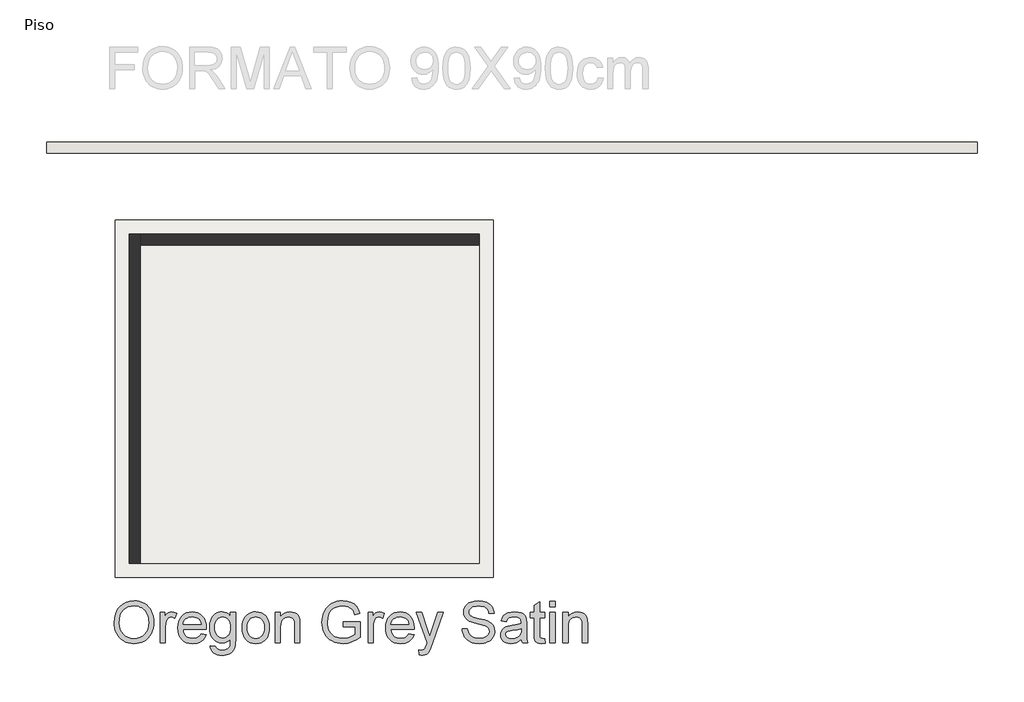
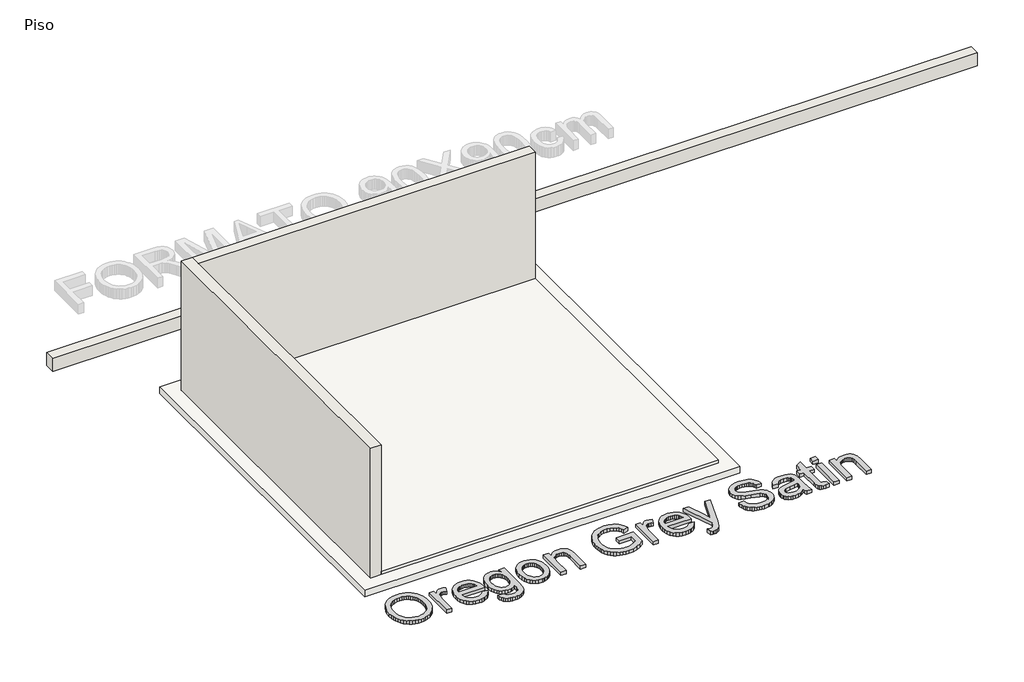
# One storey, part 1 of 2: 3 walls, 2 slabs, 1 proxy.
"""IFC4 building model written with IfcOpenShell, lengths in millimetres."""

from ifc_helpers import new_model, si_unit, frame, origin, origin_with_axes, place, context, project, spatial, polyline, outline, extrude, faceted_brep, element, save

model = new_model("IFC4")

# Units and contexts
model_context = context("Model", 3, world=origin())
ifc_project = project(units=[si_unit("LENGTHUNIT", "METRE", prefix="MILLI")], contexts=[model_context])

# Site, building, storey
site = spatial("IfcSite", under=ifc_project)
building = spatial("IfcBuilding", under=site)
storey = spatial("IfcBuildingStorey", under=building, Name="Piso", Elevation=0.0)

# Proxy
placement = place(None, origin())
element("IfcBuildingElementProxy", 1, Name="600mm Arial", ObjectType="600mm Arial", at=placement, inside=storey, context=model_context, shape_type="SweptSolid", body=[
    extrude(outline(polyline([(92667.2774556, -5048.0271216), (92672.2990448, -4977.3293991), (92687.3638125, -4914.7434747), (92712.4717587, -4860.2693483), (92728.7919237, -4836.0742093), (92747.6228833, -4813.9070198), (92790.711062, -4776.8888941), (92839.6301703, -4750.4473757), (92894.3802082, -4734.5824646), (92954.9611758, -4729.2941609), (92995.5109687, -4731.7773644), (93034.0190166, -4739.2269748), (93070.4853193, -4751.6429921), (93104.909877, -4769.0254164), (93136.3269994, -4790.8500158), (93163.7709963, -4816.5925584), (93187.2418675, -4846.2530443), (93206.7396133, -4879.8314734), (93222.0618984, -4916.5644906), (93233.0063877, -4955.6887408), (93239.5730814, -4997.2042239), (93241.7619792, -5041.11094), (93239.4581182, -5085.5970703), (93232.5465352, -5127.6735735), (93221.0272303, -5167.3404496), (93204.9002033, -5204.5976987), (93184.5471319, -5238.4612364), (93160.3496937, -5267.9469783), (93132.3078886, -5293.0549244), (93100.4217167, -5313.7850749), (93065.9465752, -5330.0086709), (93030.1378615, -5341.5969537), (92992.9955756, -5348.5499234), (92954.5197174, -5350.86758), (92913.2617516, -5348.3062016), (92874.247866, -5340.6220664), (92837.4780606, -5327.8151745), (92802.9523354, -5309.8855257), (92771.5720012, -5287.5274975), (92744.238369, -5261.435467), (92720.9514387, -5231.6094342), (92701.7112103, -5198.0493992), (92686.6464426, -5162.1027297), (92675.8858942, -5125.1167936), (92669.4295652, -5087.0915909), (92667.2774556, -5048.0271216)]), holes=[polyline([(92742.6196882, -5048.7628855), (92746.3858801, -5098.7120634), (92757.6844559, -5143.0510409), (92776.5154155, -5181.779818), (92802.878759, -5214.8983946), (92834.9258793, -5241.4226864), (92870.8081694, -5260.3686092), (92910.5256293, -5271.7361628), (92954.078259, -5275.5253474), (92998.3758497, -5271.6993746), (93038.5623592, -5260.2214564), (93074.6377873, -5241.0915926), (93106.6021342, -5214.3097834), (93132.7723396, -5180.492231), (93151.4653435, -5140.2551377), (93162.6811458, -5093.5985037), (93166.4197466, -5040.5223289), (93164.8194599, -5006.0425889), (93160.0185999, -4973.8253231), (93152.0171665, -4943.8705317), (93140.8151598, -4916.1782145), (93126.5367398, -4891.111655), (93109.3060669, -4869.0341368), (93089.1231409, -4849.9456598), (93065.9879619, -4833.846224), (93040.6178998, -4821.0669232), (93013.7303245, -4811.9388512), (92985.325236, -4806.4620079), (92955.4026342, -4804.6363935), (92913.3629192, -4808.1542651), (92874.3582306, -4818.7078799), (92838.3885686, -4836.2972378), (92805.4539329, -4860.9223388), (92777.9639509, -4893.7696025), (92758.3282494, -4936.0254481), (92746.5468285, -4987.6898758), (92742.6196882, -5048.7628855)])]), origin_with_axes(), (0.0, 0.0, 1.0), 50.0),
    extrude(outline(polyline([(93335.93977, -5341.4498009), (93335.93977, -4898.8141843), (93401.8642235, -4898.8141843), (93401.8642235, -4964.2971795), (93426.2180116, -4926.3317576), (93448.6588133, -4903.9645322), (93471.1731914, -4893.038437), (93495.7477087, -4889.3964052), (93533.2716722, -4895.2089408), (93571.3842469, -4912.6465473), (93546.2211184, -4980.1896816), (93519.7336148, -4968.6013988), (93493.2461111, -4964.7386378), (93470.7501271, -4968.454246), (93450.6453761, -4979.6010705), (93434.403386, -4997.3329826), (93423.4956848, -5020.8038539), (93414.3354232, -5062.8895542), (93411.2820026, -5108.8012272), (93411.2820026, -5341.4498009), (93335.93977, -5341.4498009)])), origin_with_axes(), (0.0, 0.0, 1.0), 50.0),
    extrude(outline(polyline([(93928.376935, -5209.6008938), (94002.2476397, -5219.0186729), (93990.9214727, -5248.6055824), (93975.6313773, -5274.6792188), (93956.3773534, -5297.2395821), (93933.159401, -5316.2866724), (93906.2166433, -5331.4158195), (93875.7882038, -5342.2223531), (93841.8740824, -5348.7062733), (93804.4742791, -5350.86758), (93757.7256745, -5347.1381763), (93716.0722356, -5335.9499651), (93679.5139623, -5317.3029465), (93648.0508547, -5291.1971204), (93622.7497705, -5258.3590538), (93604.6775675, -5219.5153136), (93593.8342457, -5174.6658999), (93590.2198051, -5123.8108126), (93593.8710339, -5071.2312784), (93604.8247203, -5024.8873441), (93623.0808643, -4984.7790095), (93648.6394659, -4950.9062748), (93680.0198001, -4923.9957069), (93715.7411418, -4904.7738726), (93755.8034911, -4893.2407721), (93800.2068479, -4889.3964052), (93843.1800635, -4893.231575), (93882.0421977, -4904.7370844), (93916.7932507, -4923.9129334), (93947.4332224, -4950.759122), (93972.4445995, -4984.5582803), (93990.3098689, -5024.5930385), (94001.0290305, -5070.8633964), (94004.6020844, -5123.3693542), (94004.160626, -5143.6764403), (93665.5620377, -5143.6764403), (93669.9260378, -5173.7415964), (93678.6034544, -5200.0727502), (93691.5942874, -5222.6699017), (93708.8985367, -5241.533051), (93729.5597093, -5256.4046807), (93752.6213118, -5267.0272733), (93778.0833444, -5273.4008289), (93805.945807, -5275.5253474), (93846.0449445, -5271.58901), (93879.8165117, -5259.779998), (93907.2605085, -5239.3625472), (93928.376935, -5209.6008938)]), holes=[polyline([(93665.5620377, -5068.3342077), (93929.2598518, -5068.3342077), (93919.0695205, -5028.5293758), (93910.304732, -5012.8759969), (93899.0935282, -5000.0553094), (93878.5473188, -4984.6042656), (93855.168418, -4973.5678057), (93828.9568258, -4966.9459298), (93799.9125423, -4964.7386378), (93773.4204401, -4966.4998729), (93749.1264329, -4971.7835781), (93727.0305205, -4980.5897533), (93707.1327031, -4992.9183987), (93690.4354591, -5008.1992971), (93677.9412668, -5025.8622313), (93669.6501263, -5045.9072016), (93665.5620377, -5068.3342077)])]), origin_with_axes(), (0.0, 0.0, 1.0), 50.0),
    extrude(outline(polyline([(94061.1087589, -5379.1209172), (94136.4509915, -5388.5386963), (94144.7651246, -5412.083144), (94160.878356, -5428.2699518), (94192.5529958, -5440.851516), (94234.0132966, -5445.0453708), (94278.2327124, -5440.299693), (94296.0933833, -5434.3675958), (94311.1213628, -5426.0626598), (94333.9300465, -5403.2539761), (94347.9095623, -5372.7933469), (94351.9930525, -5340.3829431), (94353.0599103, -5284.9431265), (94327.9887523, -5309.6647965), (94300.0113266, -5327.3231323), (94269.1276331, -5337.9181338), (94235.3376718, -5341.4498009), (94194.0291223, -5337.3387196), (94157.6593885, -5325.0054757), (94126.2284706, -5304.4500692), (94099.7363684, -5275.6725002), (94078.7165109, -5241.1467749), (94063.702327, -5203.3468999), (94054.6938166, -5162.2728752), (94051.6909798, -5117.9247006), (94057.080451, -5057.0954127), (94073.2488647, -5001.1589554), (94085.2326207, -4975.9360461), (94099.6260038, -4953.7573603), (94116.4290139, -4934.622898), (94135.6416511, -4918.5326593), (94156.9558142, -4905.7855481), (94180.063402, -4896.6804687), (94204.9644146, -4891.2174211), (94231.6588519, -4889.3964052), (94266.8927499, -4893.5166836), (94298.8708924, -4905.8775186), (94327.5932791, -4926.4789104), (94353.0599103, -4955.3208588), (94353.0599103, -4898.8141843), (94428.4021429, -4898.8141843), (94428.4021429, -5280.9700009), (94423.2517949, -5369.2064974), (94416.81386, -5402.0261699), (94407.8007511, -5427.3134586), (94395.9963376, -5447.7079167), (94381.1844888, -5465.8490976), (94363.3652046, -5481.7370012), (94342.5384852, -5495.3716277), (94318.9158626, -5506.316117), (94292.708869, -5514.1336094), (94263.9175043, -5518.8241049), (94232.5417686, -5520.3876034), (94195.6294089, -5518.1849099), (94162.4418545, -5511.5768296), (94132.9791052, -5500.5633623), (94107.2411611, -5485.1445082), (94086.4512298, -5465.3018731), (94071.832519, -5441.0170629), (94063.3850287, -5412.2900776), (94061.1087589, -5379.1209172)]), holes=[polyline([(94127.0332124, -5112.7743527), (94129.0427678, -5150.0270032), (94135.071434, -5181.8809855), (94145.119211, -5208.3362995), (94159.1860988, -5229.3929452), (94176.2880131, -5245.4555928), (94195.4408694, -5256.9289125), (94216.6446679, -5263.8129044), (94239.8994085, -5266.1075683), (94262.9242229, -5263.8266999), (94284.0268539, -5256.9840948), (94303.2073014, -5245.579753), (94320.4655655, -5229.6136744), (94334.7255913, -5208.7639623), (94344.9113241, -5182.70872), (94351.0227637, -5151.4479475), (94353.0599103, -5114.9816447), (94350.9629829, -5080.0374537), (94344.6722008, -5049.6641964), (94334.1875639, -5023.861873), (94319.5090723, -5002.6304834), (94301.8783277, -4986.0528009), (94282.5369318, -4974.2115992), (94261.4848846, -4967.1068782), (94238.7221862, -4964.7386378), (94216.3411653, -4967.07009), (94195.6983868, -4974.0644464), (94176.7938508, -4985.7217071), (94159.6275572, -5002.0418722), (94145.3675314, -5022.9513651), (94135.1817986, -5048.3766095), (94129.070359, -5078.3176053), (94127.0332124, -5112.7743527)])]), origin_with_axes(), (0.0, 0.0, 1.0), 50.0),
    extrude(outline(polyline([(94522.5799336, -5120.1319926), (94526.6542267, -5062.8067807), (94538.877106, -5013.4094258), (94559.2485715, -4971.9399279), (94587.7686232, -4938.398287), (94616.4818129, -4916.9599637), (94648.1748468, -4901.6468757), (94682.8477248, -4892.4590228), (94720.500447, -4889.3964052), (94762.066514, -4893.125809), (94799.6502583, -4904.3140201), (94833.25168, -4922.9610388), (94862.8707792, -4949.0668649), (94887.0452248, -4981.7485816), (94904.3126859, -5020.1232722), (94914.6731626, -5064.1909367), (94918.1266549, -5113.9515751), (94916.5999446, -5154.2806388), (94912.0198137, -5190.0663599), (94904.3862623, -5221.3087383), (94893.6992904, -5248.0077741), (94880.0922551, -5271.0693767), (94863.6985137, -5291.3994555), (94844.5180661, -5308.9980104), (94822.5509125, -5323.8650415), (94798.6523784, -5335.6786521), (94773.6777894, -5344.1169454), (94747.6271457, -5349.1799213), (94720.500447, -5350.86758), (94678.3273748, -5347.1519718), (94640.3941426, -5336.0051474), (94606.7007504, -5317.4271066), (94577.2471981, -5291.4178496), (94553.3302699, -5258.4188346), (94536.2467498, -5218.8715201), (94525.9966377, -5172.7759061), (94522.5799336, -5120.1319926)]), holes=[polyline([(94597.9221662, -5119.9848398), (94600.1018671, -5156.5293175), (94606.6409695, -5188.1717676), (94617.5394736, -5214.9121901), (94632.7973794, -5236.7505851), (94651.357026, -5253.7145436), (94672.1607529, -5265.8316568), (94695.2085599, -5273.1019247), (94720.500447, -5275.5253474), (94745.6635755, -5273.0881292), (94768.619412, -5265.7764745), (94789.3679565, -5253.5903834), (94807.9092091, -5236.5298559), (94823.1671148, -5214.4753303), (94834.065619, -5187.3072449), (94840.6047214, -5155.0255999), (94842.7844222, -5117.630395), (94840.5909258, -5082.2447456), (94834.0104367, -5051.43003), (94823.0429547, -5025.1862482), (94807.6884799, -5003.5134001), (94789.0782495, -4986.5494416), (94768.3435005, -4974.4323284), (94745.484233, -4967.1620605), (94720.500447, -4964.7386378), (94695.2085599, -4967.1528634), (94672.1607529, -4974.3955402), (94651.357026, -4986.4666682), (94632.7973794, -5003.3662473), (94617.5394736, -5025.1402629), (94606.6409695, -5051.8347002), (94600.1018671, -5083.4495592), (94597.9221662, -5119.9848398)])]), origin_with_axes(), (0.0, 0.0, 1.0), 50.0),
    extrude(outline(polyline([(95002.8866665, -5341.4498009), (95002.8866665, -4898.8141843), (95078.2288992, -4898.8141843), (95078.2288992, -4960.6183595), (95104.4037031, -4929.4587545), (95135.8392196, -4907.2018938), (95172.5354486, -4893.8477774), (95214.4923902, -4889.3964052), (95251.6300776, -4892.9832547), (95285.640768, -4903.743803), (95314.0044699, -4920.335281), (95334.2011914, -4941.4149194), (95347.9047957, -4966.9275357), (95356.7891459, -4996.8179478), (95360.7622714, -5069.6585829), (95360.7622714, -5341.4498009), (95285.4200388, -5341.4498009), (95285.4200388, -5079.8121259), (95283.2495351, -5040.8534227), (95276.7380237, -5013.1519084), (95264.7266766, -4993.3046748), (95246.0566654, -4977.9088133), (95222.1259416, -4968.0311817), (95194.3324568, -4964.7386378), (95171.4547953, -4966.5872449), (95150.2050115, -4972.133066), (95130.5831056, -4981.3761011), (95112.5890775, -4994.3163503), (95097.5564995, -5012.4253415), (95086.8189437, -5037.1746027), (95080.3764103, -5068.5641339), (95078.2288992, -5106.5939352), (95078.2288992, -5341.4498009), (95002.8866665, -5341.4498009)])), origin_with_axes(), (0.0, 0.0, 1.0), 50.0),
    extrude(outline(polyline([(95991.7534696, -5106.005324), (95991.7534696, -5030.6630914), (96236.6157256, -5030.6630914), (96236.6157256, -5255.9540252), (96177.1108128, -5297.3407497), (96115.7297019, -5327.0288267), (96052.6195457, -5344.9078917), (95987.9274968, -5350.86758), (95944.6507786, -5348.4993396), (95903.4066084, -5341.3946186), (95864.1949863, -5329.5534169), (95827.0159121, -5312.9757345), (95793.069601, -5291.9098917), (95763.556268, -5266.604209), (95738.4759129, -5237.0586863), (95717.828536, -5203.2733235), (95701.701509, -5166.3287742), (95690.182204, -5127.3056915), (95683.270621, -5086.2040756), (95680.96676, -5043.0239264), (95683.261424, -4999.8391787), (95690.1454158, -4958.135156), (95701.6187356, -4917.9118584), (95717.6813832, -4879.1692858), (95738.0482501, -4843.6088924), (95762.4342279, -4812.9321325), (95790.8393164, -4787.1390062), (95823.2635158, -4766.2295133), (95859.0032516, -4750.0702966), (95897.3549496, -4738.527999), (95938.3186098, -4731.6026205), (95981.8942321, -4729.2941609), (96043.9559247, -4734.646844), (96099.7636234, -4750.7048931), (96124.68303, -4762.4587228), (96146.7605482, -4776.3094799), (96165.9961781, -4792.2571644), (96182.3899195, -4810.3017763), (96208.7486644, -4854.318857), (96227.9337105, -4909.997797), (96158.4775898, -4929.5691191), (96142.9713637, -4889.8562577), (96124.1174114, -4859.8922692), (96099.1750122, -4837.3043147), (96065.403445, -4819.7195554), (96025.1387606, -4808.407184), (95980.7170097, -4804.6363935), (95928.7168897, -4808.7014896), (95884.2583506, -4820.8967777), (95847.5069393, -4839.6955477), (95818.6282026, -4863.5710892), (95796.4633124, -4891.2909975), (95779.8534404, -4921.622868), (95762.1951046, -4978.4974245), (95756.3089927, -5039.9337177), (95758.0794248, -5077.5542502), (95763.3907211, -5111.9834064), (95772.2428816, -5143.2211863), (95784.6359063, -5171.2675899), (95800.4088468, -5196.0168512), (95819.4007548, -5217.3632039), (95841.6116303, -5235.3066483), (95867.0414732, -5249.8471841), (95894.4992656, -5261.0813805), (95922.7939896, -5269.1058066), (95951.9256451, -5273.9204622), (95981.8942321, -5275.5253474), (96034.0782931, -5270.6876991), (96084.9747672, -5256.1747544), (96129.1757889, -5236.180368), (96161.273493, -5214.8983946), (96161.273493, -5106.005324), (95991.7534696, -5106.005324)])), origin_with_axes(), (0.0, 0.0, 1.0), 50.0),
    extrude(outline(polyline([(96349.6290745, -5341.4498009), (96349.6290745, -4898.8141843), (96415.553528, -4898.8141843), (96415.553528, -4964.2971795), (96439.9073161, -4926.3317576), (96462.3481178, -4903.9645322), (96484.8624959, -4893.038437), (96509.4370132, -4889.3964052), (96546.9609767, -4895.2089408), (96585.0735514, -4912.6465473), (96559.9104229, -4980.1896816), (96533.4229193, -4968.6013988), (96506.9354156, -4964.7386378), (96484.4394316, -4968.454246), (96464.3346806, -4979.6010705), (96448.0926905, -4997.3329826), (96437.1849893, -5020.8038539), (96428.0247277, -5062.8895542), (96424.9713071, -5108.8012272), (96424.9713071, -5341.4498009), (96349.6290745, -5341.4498009)])), origin_with_axes(), (0.0, 0.0, 1.0), 50.0),
    extrude(outline(polyline([(96942.0662395, -5209.6008938), (97015.9369441, -5219.0186729), (97004.6107772, -5248.6055824), (96989.3206818, -5274.6792188), (96970.0666579, -5297.2395821), (96946.8487055, -5316.2866724), (96919.9059478, -5331.4158195), (96889.4775083, -5342.2223531), (96855.5633869, -5348.7062733), (96818.1635835, -5350.86758), (96771.414979, -5347.1381763), (96729.7615401, -5335.9499651), (96693.2032668, -5317.3029465), (96661.7401592, -5291.1971204), (96636.439075, -5258.3590538), (96618.366872, -5219.5153136), (96607.5235502, -5174.6658999), (96603.9091095, -5123.8108126), (96607.5603384, -5071.2312784), (96618.5140248, -5024.8873441), (96636.7701688, -4984.7790095), (96662.3287704, -4950.9062748), (96693.7091046, -4923.9957069), (96729.4304463, -4904.7738726), (96769.4927956, -4893.2407721), (96813.8961524, -4889.3964052), (96856.869368, -4893.231575), (96895.7315022, -4904.7370844), (96930.4825552, -4923.9129334), (96961.1225269, -4950.759122), (96986.133904, -4984.5582803), (97003.9991734, -5024.5930385), (97014.718335, -5070.8633964), (97018.2913889, -5123.3693542), (97017.8499305, -5143.6764403), (96679.2513422, -5143.6764403), (96683.6153423, -5173.7415964), (96692.2927589, -5200.0727502), (96705.2835918, -5222.6699017), (96722.5878412, -5241.533051), (96743.2490137, -5256.4046807), (96766.3106163, -5267.0272733), (96791.7726489, -5273.4008289), (96819.6351115, -5275.5253474), (96859.734249, -5271.58901), (96893.5058162, -5259.779998), (96920.949813, -5239.3625472), (96942.0662395, -5209.6008938)]), holes=[polyline([(96679.2513422, -5068.3342077), (96942.9491563, -5068.3342077), (96932.758825, -5028.5293758), (96923.9940365, -5012.8759969), (96912.7828327, -5000.0553094), (96892.2366233, -4984.6042656), (96868.8577225, -4973.5678057), (96842.6461303, -4966.9459298), (96813.6018468, -4964.7386378), (96787.1097446, -4966.4998729), (96762.8157374, -4971.7835781), (96740.719825, -4980.5897533), (96720.8220076, -4992.9183987), (96704.1247636, -5008.1992971), (96691.6305713, -5025.8622313), (96683.3394308, -5045.9072016), (96679.2513422, -5068.3342077)])]), origin_with_axes(), (0.0, 0.0, 1.0), 50.0),
    extrude(outline(polyline([(97093.6336215, -5510.9698243), (97084.2158425, -5438.4234948), (97122.47557, -5445.0453708), (97142.5987151, -5442.9668375), (97158.2336999, -5436.7312377), (97170.4105939, -5426.7800297), (97180.1594668, -5413.554672), (97200.7608585, -5358.0780671), (97206.6469704, -5339.8311201), (97046.5447261, -4898.8141843), (97126.0072371, -4898.8141843), (97210.9144016, -5144.5593571), (97240.492114, -5242.8574262), (97270.0698264, -5156.0372753), (97357.3314357, -4898.8141843), (97436.2053354, -4898.8141843), (97282.1363559, -5352.0448024), (97242.1107948, -5450.3428715), (97221.6197677, -5481.7232057), (97198.4064138, -5503.4650316), (97171.4406635, -5516.1569604), (97139.6924473, -5520.3876034), (97117.877045, -5518.0331586), (97093.6336215, -5510.9698243)])), origin_with_axes(), (0.0, 0.0, 1.0), 50.0),
    extrude(outline(polyline([(97715.2070406, -5134.2586612), (97790.5492732, -5134.2586612), (97799.1945001, -5176.06845), (97814.8294849, -5209.6744702), (97839.2200612, -5236.3459149), (97874.1320625, -5257.3519768), (97916.8063739, -5270.9820047), (97964.4838805, -5275.5253474), (98006.4592162, -5272.0856507), (98043.2106275, -5261.7665608), (98072.990675, -5245.4326002), (98094.0519192, -5223.9482917), (98106.5783011, -5199.2818039), (98110.7537618, -5173.4013055), (98107.6267648, -5148.1829947), (98098.245774, -5126.3859865), (98079.1894866, -5107.7895517), (98047.0366002, -5092.172961), (97937.3341893, -5063.404589), (97865.3212887, -5044.3666957), (97819.2440688, -5026.2485074), (97781.7384994, -5000.901438), (97755.1590253, -4970.1832914), (97739.3217054, -4934.7562552), (97734.0425987, -4895.2825172), (97735.6750751, -4872.846314), (97740.5725041, -4851.1550718), (97748.7348859, -4830.2087907), (97760.1622204, -4810.0074707), (97774.7257489, -4791.3742476), (97792.2967127, -4775.1322575), (97812.8751118, -4761.2815004), (97836.4609462, -4749.8219763), (97889.4727417, -4734.4261148), (97948.1499199, -4729.2941609), (98011.7199287, -4734.6652381), (98067.3436864, -4750.7784695), (98091.6790803, -4762.7806195), (98113.0346302, -4777.3027613), (98131.4103358, -4794.3448947), (98146.8061973, -4813.9070198), (98159.102653, -4835.4189195), (98168.1801412, -4858.3103766), (98174.038662, -4882.5813913), (98176.6782153, -4908.2319634), (98101.3359827, -4908.2319634), (98096.2959994, -4884.190875), (98087.5036197, -4863.2767836), (98074.9588437, -4845.4896891), (98058.6616713, -4830.8295916), (98038.3085999, -4819.3700675), (98013.5961269, -4811.1846931), (97984.5242522, -4806.2734684), (97951.0929759, -4804.6363935), (97916.5948418, -4806.2550743), (97887.1182969, -4811.1111167), (97862.6633413, -4819.2045206), (97843.2299749, -4830.535286), (97828.4227246, -4844.1561169), (97817.8461172, -4859.119717), (97811.5001528, -4875.4260865), (97809.3848313, -4893.0752252), (97810.8839505, -4908.2595545), (97815.3813079, -4922.0275382), (97822.8769035, -4934.3791762), (97833.3707374, -4945.3144685), (97849.888639, -4955.6703467), (97875.8978961, -4966.1365894), (97956.3904766, -4987.4001688), (98039.4582311, -5007.5968903), (98089.7109117, -5025.2184379), (98132.6611346, -5052.5520701), (98149.2664082, -5068.6193162), (98162.6251231, -5086.2868491), (98172.8936293, -5105.4626981), (98180.2282766, -5126.0548927), (98186.0959944, -5171.4883191), (98184.4083358, -5195.0557595), (98179.3453598, -5217.933421), (98170.9070665, -5240.1213039), (98159.093456, -5261.619408), (98144.1114617, -5281.5954003), (98126.1680174, -5299.2169479), (98105.263123, -5314.4840507), (98081.3967786, -5327.3967087), (98055.2633613, -5337.6652149), (98027.5572486, -5344.9998622), (97967.4269365, -5350.86758), (97928.886699, -5349.2856874), (97893.6114141, -5344.5400097), (97861.601082, -5336.6305468), (97832.8557026, -5325.5572987), (97807.200532, -5311.3018714), (97784.4608262, -5293.8458707), (97764.6365852, -5273.1892967), (97747.727809, -5249.3321493), (97734.1069781, -5223.0469808), (97724.1465731, -5195.1063432), (97717.8465939, -5165.5102367), (97715.2070406, -5134.2586612)])), origin_with_axes(), (0.0, 0.0, 1.0), 50.0),
    extrude(outline(polyline([(98572.2249365, -5284.9431265), (98536.2276833, -5315.8084258), (98499.1635723, -5336.0051474), (98460.1864749, -5347.1519718), (98418.4502626, -5350.86758), (98384.9040231, -5348.6326969), (98355.4872591, -5341.9280475), (98330.1999704, -5330.7536319), (98309.0421572, -5315.1094501), (98292.3357161, -5295.9887834), (98280.4025439, -5274.3849132), (98273.2426405, -5250.2978396), (98270.8560061, -5223.7275625), (98274.4612496, -5192.4943811), (98285.2769803, -5164.1306792), (98301.9604288, -5139.8504676), (98323.1688258, -5120.8677566), (98348.092831, -5106.5203588), (98375.9231039, -5096.1460865), (98441.1117935, -5084.8153211), (98518.1462833, -5072.8959444), (98571.7834781, -5058.9164286), (98572.2249365, -5042.1410096), (98567.0378004, -5008.5165953), (98560.5538802, -4996.0637897), (98551.476392, -4986.517252), (98535.7862249, -4976.9891083), (98516.6747553, -4970.1832914), (98468.1879083, -4964.7386378), (98423.3063049, -4968.3622755), (98391.9627589, -4979.2331885), (98370.588815, -4999.3379395), (98355.6160178, -5030.6630914), (98280.2737852, -5021.2453123), (98293.3519901, -4980.0425288), (98312.8681299, -4947.6689133), (98340.6432206, -4922.910455), (98378.4982779, -4904.5531434), (98424.796227, -4893.1855898), (98477.899993, -4889.3964052), (98528.8332552, -4892.7441314), (98569.2083042, -4902.7873099), (98599.6505393, -4917.8888658), (98620.7853599, -4936.4117242), (98634.8016639, -4959.3123784), (98643.8883492, -4987.5473216), (98647.5671692, -5053.4717751), (98647.5671692, -5147.2081075), (98651.3931419, -5278.1005213), (98657.0585246, -5310.4557428), (98666.4027273, -5341.4498009), (98591.0604947, -5341.4498009), (98578.9939653, -5315.2566029), (98572.2249365, -5284.9431265)]), holes=[polyline([(98572.2249365, -5134.2586612), (98521.604374, -5146.8034373), (98450.6767253, -5157.3616505), (98385.8559178, -5169.5753328), (98368.9885283, -5177.9262541), (98356.4989346, -5189.4409605), (98348.7734127, -5203.2365353), (98346.1982387, -5218.4300617), (98351.8084391, -5240.8340752), (98368.6390404, -5259.1913868), (98396.3221605, -5271.4418572), (98434.4899175, -5275.5253474), (98474.956937, -5271.0187929), (98510.7150669, -5257.4991296), (98539.7041682, -5237.5783196), (98559.8641015, -5213.868325), (98568.803634, -5189.4409605), (98571.7834781, -5155.5958169), (98572.2249365, -5134.2586612)])]), origin_with_axes(), (0.0, 0.0, 1.0), 50.0),
    extrude(outline(polyline([(98911.2649833, -5278.6155561), (98920.6827624, -5343.6570929), (98864.3232407, -5350.86758), (98828.1604406, -5347.740583), (98801.1946903, -5338.3595922), (98782.138403, -5323.9018297), (98769.7039916, -5305.5445182), (98762.8613864, -5274.0170312), (98760.5805181, -5220.0487425), (98760.5805181, -4974.1564169), (98704.0738436, -4974.1564169), (98704.0738436, -4898.8141843), (98760.5805181, -4898.8141843), (98760.5805181, -4791.2454889), (98835.9227507, -4746.9524967), (98835.9227507, -4898.8141843), (98911.2649833, -4898.8141843), (98911.2649833, -4974.1564169), (98835.9227507, -4974.1564169), (98835.9227507, -5217.8414505), (98839.8958762, -5256.6897892), (98852.7717461, -5270.4485758), (98863.642659, -5274.2561545), (98878.4499093, -5275.5253474), (98911.2649833, -5278.6155561)])), origin_with_axes(), (0.0, 0.0, 1.0), 50.0),
    extrude(outline(polyline([(98986.6072159, -4814.0541726), (98986.6072159, -4738.71194), (99061.9494485, -4738.71194), (99061.9494485, -4814.0541726), (98986.6072159, -4814.0541726)])), origin_with_axes(), (0.0, 0.0, 1.0), 50.0),
    extrude(outline(polyline([(98986.6072159, -5341.4498009), (98986.6072159, -4898.8141843), (99061.9494485, -4898.8141843), (99061.9494485, -5341.4498009), (98986.6072159, -5341.4498009)])), origin_with_axes(), (0.0, 0.0, 1.0), 50.0),
    extrude(outline(polyline([(99174.9627974, -5341.4498009), (99174.9627974, -4898.8141843), (99250.3050301, -4898.8141843), (99250.3050301, -4960.6183595), (99276.479834, -4929.4587545), (99307.9153505, -4907.2018938), (99344.6115795, -4893.8477774), (99386.5685211, -4889.3964052), (99423.7062085, -4892.9832547), (99457.7168989, -4903.743803), (99486.0806008, -4920.335281), (99506.2773223, -4941.4149194), (99519.9809266, -4966.9275357), (99528.8652768, -4996.8179478), (99532.8384023, -5069.6585829), (99532.8384023, -5341.4498009), (99457.4961697, -5341.4498009), (99457.4961697, -5079.8121259), (99455.325666, -5040.8534227), (99448.8141546, -5013.1519084), (99436.8028075, -4993.3046748), (99418.1327963, -4977.9088133), (99394.2020725, -4968.0311817), (99366.4085877, -4964.7386378), (99343.5309262, -4966.5872449), (99322.2811424, -4972.133066), (99302.6592365, -4981.3761011), (99284.6652084, -4994.3163503), (99269.6326304, -5012.4253415), (99258.8950746, -5037.1746027), (99252.4525412, -5068.5641339), (99250.3050301, -5106.5939352), (99250.3050301, -5341.4498009), (99174.9627974, -5341.4498009)])), origin_with_axes(), (0.0, 0.0, 1.0), 50.0),
])

# Slabs
element("IfcSlab", 2, ObjectType="5cm - Porcelanato Oregon Grey Satin  - Acetinado 90x90cm", at=placement, inside=storey, context=model_context, shape_type="SweptSolid", body=[
    extrude(outline(polyline([(97965.2210197, 434.6838304), (97965.2210197, -4185.9161696), (93044.6210197, -4185.9161696), (93044.6210197, 434.6838304), (97965.2210197, 434.6838304)])), origin_with_axes(), (0.0, 0.0, 1.0), 50.0),
])
element("IfcSlab", 3, ObjectType="CO02 - Concreto Estrutural Simples", at=placement, inside=storey, context=model_context, shape_type="SweptSolid", body=[
    extrude(outline(polyline([(98165.2210197, 793.4838304), (98165.2210197, -4385.9161696), (92685.8210197, -4385.9161696), (92685.8210197, 793.4838304), (98165.2210197, 793.4838304)])), frame((0.0, 0.0, -100.0), z_axis=(0.0, 0.0, 1.0), x_axis=(1.0, 0.0, 0.0)), (0.0, 0.0, 1.0), 100.0),
])

# Walls
element("IfcWall", 4, ObjectType="CO01 - Bloco de Concreto 14cm / Pintura Branca Simples", at=placement, inside=storey, context=model_context, shape_type="SweptSolid", body=[
    extrude(outline(polyline([(105186.699165, 1765.7486968), (91686.699165, 1765.7486968), (91686.699165, 1924.5486968), (105186.699165, 1924.5486968), (105186.699165, 1765.7486968)])), origin_with_axes(), (0.0, 0.0, 1.0), 200.0),
])
element("IfcWall", 5, ObjectType="CO01 - Bloco de Concreto 14cm / Pintura Branca Simples", at=placement, inside=storey, context=model_context, shape_type="Brep", body=[
    faceted_brep([(93044.6210197, -4185.9161696, 0.0), (93044.6210197, 434.6838304, 0.0), (93044.6210197, 593.4838304, 0.0), (93044.6210197, 593.4838304, 2000.0), (93044.6210197, 434.6838304, 2000.0), (93044.6210197, -4185.9161696, 2000.0), (92885.8210197, -4185.9161696, 0.0), (92885.8210197, -4185.9161696, 2000.0), (92885.8210197, 593.4838304, 2000.0), (92885.8210197, 593.4838304, 0.0)], [[[0, 1, 2, 3, 4, 5]], [[6, 7, 8, 9]], [[2, 1, 0, 6, 9]], [[5, 4, 3, 8, 7]], [[0, 5, 7, 6]], [[3, 2, 9, 8]]]),
])
element("IfcWall", 6, ObjectType="CO01 - Bloco de Concreto 14cm / Pintura Branca Simples", at=placement, inside=storey, context=model_context, shape_type="SweptSolid", body=[
    extrude(outline(polyline([(97965.2210197, 434.6838304), (93044.6210197, 434.6838304), (93044.6210197, 593.4838304), (97965.2210197, 593.4838304), (97965.2210197, 434.6838304)])), origin_with_axes(), (0.0, 0.0, 1.0), 2000.0),
])

save(model, "model.ifc")
